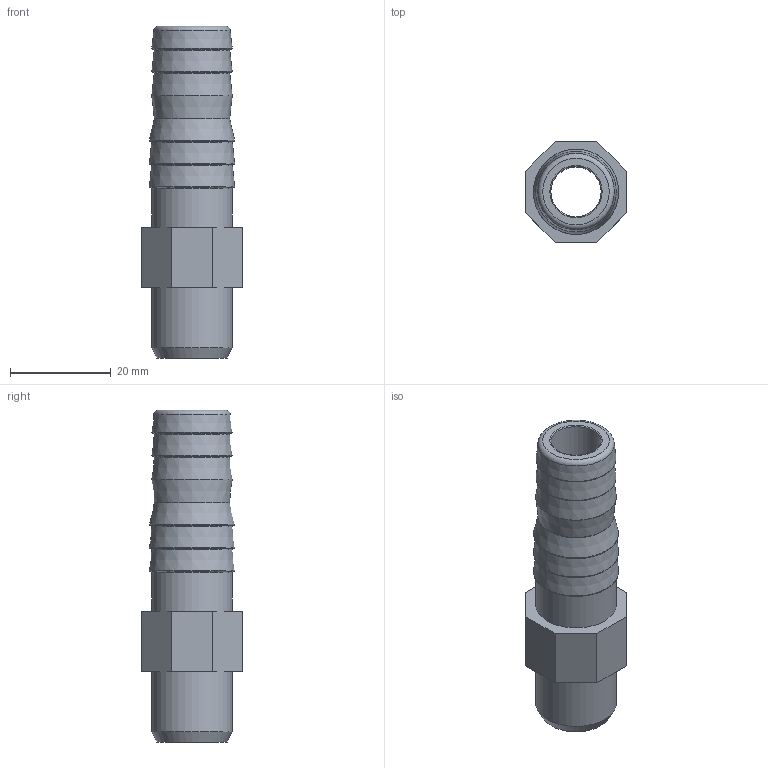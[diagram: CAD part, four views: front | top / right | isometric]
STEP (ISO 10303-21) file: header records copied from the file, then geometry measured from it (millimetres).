
FILE_DESCRIPTION(/* description */ ('PVC portagomma incollaggio metrico'),/* implementation_level */ '2;1');
FILE_NAME(/* name */ 'C:\Users\POLYPIPE\Desktop\DATASET INVENTOR\LIBRERIA EFFAST\RACCORDI 3DxWEB\RDR\3D_RDRPGD\3D_RDRPGD0160.stp',/* time_stamp */ '2018-01-19T14:54:30+01:00',/* author */ ('POLYPIPE'),/* organization */ ('Polypipe Italia s.r.l.'),/* preprocessor_version */ 'ST-DEVELOPER v16.1',/* originating_system */ 'Autodesk Inventor 2016',/* authorisation */ '');
FILE_SCHEMA (('CONFIG_CONTROL_DESIGN'));
Length unit declared in the file: millimetre
Products named in the file (1): 3D_RDRPGD0160
Bounding box: 20 x 20 x 66 mm (x, y, z)
Volume: 9486.2 mm3; surface area: 6070.2 mm2
Topology: 1 solids, 1 shells, 43 faces, 86 edges, 52 vertices
Faces by surface type: plane 17, torus 15, cone 8, cylinder 3
Full cylindrical faces by diameter (mm): 10 x1, 16 x2
Entity records: 986 total; most frequent: DIRECTION 180, CARTESIAN_POINT 152, ORIENTED_EDGE 116, EDGE_LOOP 78, AXIS2_PLACEMENT_3D 78, EDGE_CURVE 58, VERTEX_POINT 50, FACE_OUTER_BOUND 43
